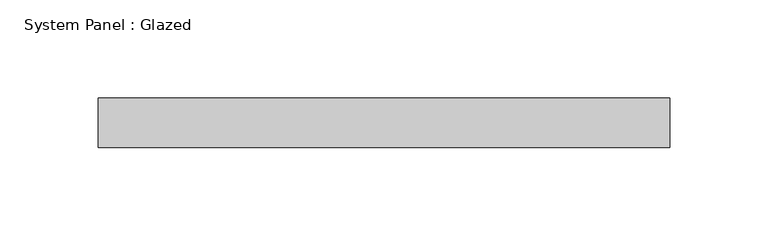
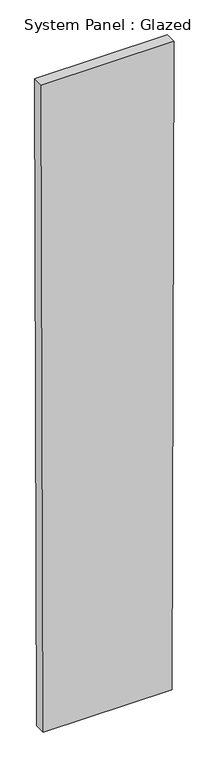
"""IFC4 building model written with IfcOpenShell, lengths in millimetres: plate geometry, System Panel : Glazed."""

from ifc_helpers import new_model, si_unit, frame, origin, place, context, project, spatial, polyline, outline, extrude, source, transform, mapped, element, save


def system_panel_glazed_ba983d34(model_context):
    return source(origin(), model_context, "Body", "SweptSolid", [
        extrude(outline(polyline([(0.0, -141.0761918), (0.0, 141.0761556), (1499.9942432, 145.2319722), (1499.9942432, -145.2319722), (0.0, -141.0761918)])), frame((0.0, -49.5, 0.0), z_axis=(0.0, 1.0, 0.0), x_axis=(0.0, 0.0, 1.0)), (0.0, 0.0, 1.0), 25.0),
    ])


if __name__ == "__main__":
    model = new_model("IFC4")
    model_context = context("Model", 3, world=origin())
    ifc_project = project(units=[si_unit("LENGTHUNIT", "METRE", prefix="MILLI")], contexts=[model_context])
    site = spatial("IfcSite", under=ifc_project)
    building = spatial("IfcBuilding", under=site)
    placement = place(None, origin())
    system_panel_glazed_shape = system_panel_glazed_ba983d34(model_context)
    element("IfcPlate", 1, ObjectType="System Panel : Glazed", at=placement, inside=building, context=model_context, shape_type="MappedRepresentation", body=[
        mapped(system_panel_glazed_shape, transform((0.0, 0.0, 0.0), x_axis=(1.0, 0.0, 0.0), y_axis=(0.0, 1.0, 0.0), z_axis=(0.0, 0.0, 1.0))),
    ])
    save(model, "model.ifc")
